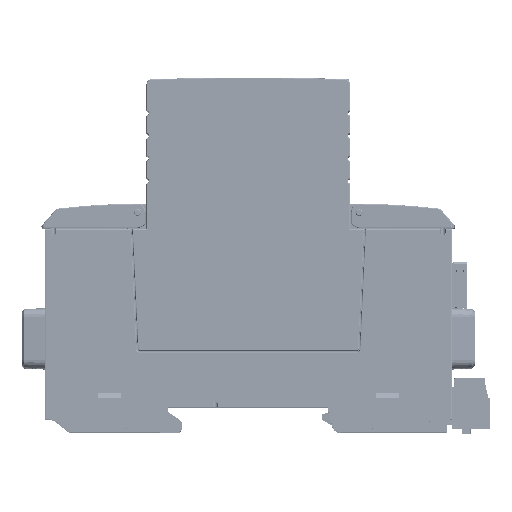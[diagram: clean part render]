
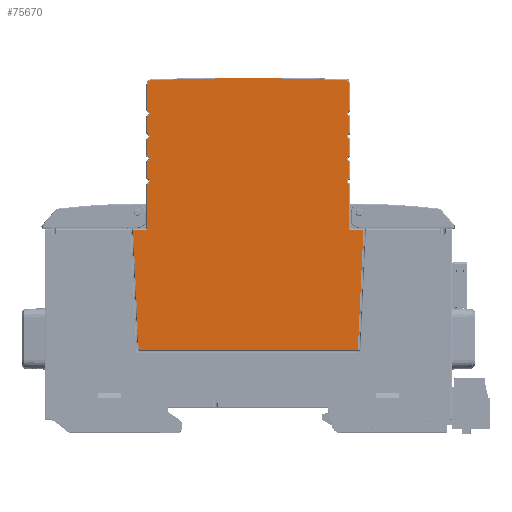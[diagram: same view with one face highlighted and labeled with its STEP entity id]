
A CAD part, top view. The second image highlights one B-rep face of the part: STEP entity #75670.
In plain terms, the highlighted planar face has unit normal (0, 0, 1) as drawn and (0, 0, -1) by its records, which use the part's own axes.
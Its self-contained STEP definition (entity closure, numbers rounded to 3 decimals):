
#1872=CIRCLE('',#79811,0.3);
#1875=CIRCLE('',#79816,0.3);
#1998=CIRCLE('',#80288,0.7);
#2009=CIRCLE('',#80308,0.7);
#2020=CIRCLE('',#80328,0.7);
#2031=CIRCLE('',#80348,0.7);
#2041=CIRCLE('',#80365,1.);
#2043=CIRCLE('',#80368,599.8);
#2044=CIRCLE('',#80370,1.);
#2051=CIRCLE('',#80383,0.7);
#2062=CIRCLE('',#80403,0.7);
#2074=CIRCLE('',#80424,0.7);
#2082=CIRCLE('',#80445,0.7);
#6128=ORIENTED_EDGE('',*,*,#27749,.T.);
#6129=ORIENTED_EDGE('',*,*,#27736,.T.);
#6130=ORIENTED_EDGE('',*,*,#27729,.T.);
#6131=ORIENTED_EDGE('',*,*,#27715,.T.);
#6132=ORIENTED_EDGE('',*,*,#27711,.T.);
#6133=ORIENTED_EDGE('',*,*,#27699,.T.);
#6134=ORIENTED_EDGE('',*,*,#27695,.T.);
#6135=ORIENTED_EDGE('',*,*,#26543,.T.);
#6136=ORIENTED_EDGE('',*,*,#27686,.T.);
#6137=ORIENTED_EDGE('',*,*,#27685,.T.);
#6138=ORIENTED_EDGE('',*,*,#27683,.T.);
#6139=ORIENTED_EDGE('',*,*,#27754,.T.);
#6140=ORIENTED_EDGE('',*,*,#27670,.T.);
#6141=ORIENTED_EDGE('',*,*,#27658,.T.);
#6142=ORIENTED_EDGE('',*,*,#27654,.T.);
#6143=ORIENTED_EDGE('',*,*,#27642,.T.);
#6144=ORIENTED_EDGE('',*,*,#27638,.T.);
#6145=ORIENTED_EDGE('',*,*,#27626,.T.);
#6146=ORIENTED_EDGE('',*,*,#27622,.T.);
#6147=ORIENTED_EDGE('',*,*,#26793,.T.);
#6148=ORIENTED_EDGE('',*,*,#26801,.T.);
#6149=ORIENTED_EDGE('',*,*,#26791,.T.);
#6150=ORIENTED_EDGE('',*,*,#26788,.T.);
#6151=ORIENTED_EDGE('',*,*,#26786,.T.);
#6152=ORIENTED_EDGE('',*,*,#26783,.T.);
#6153=ORIENTED_EDGE('',*,*,#26780,.T.);
#6154=ORIENTED_EDGE('',*,*,#26768,.T.);
#6155=ORIENTED_EDGE('',*,*,#27753,.T.);
#26543=EDGE_CURVE('',#37868,#37870,#45145,.T.);
#26768=EDGE_CURVE('',#38050,#38048,#45265,.T.);
#26780=EDGE_CURVE('',#38056,#38050,#45272,.T.);
#26783=EDGE_CURVE('',#38058,#38056,#1872,.T.);
#26786=EDGE_CURVE('',#38060,#38058,#45274,.T.);
#26788=EDGE_CURVE('',#38061,#38060,#1875,.T.);
#26791=EDGE_CURVE('',#38062,#38061,#45276,.T.);
#26793=EDGE_CURVE('',#38066,#38064,#45277,.T.);
#26801=EDGE_CURVE('',#38064,#38062,#45283,.T.);
#27622=EDGE_CURVE('',#38554,#38066,#1998,.T.);
#27626=EDGE_CURVE('',#38555,#38554,#45884,.T.);
#27638=EDGE_CURVE('',#38560,#38555,#2009,.T.);
#27642=EDGE_CURVE('',#38561,#38560,#45889,.T.);
#27654=EDGE_CURVE('',#38566,#38561,#2020,.T.);
#27658=EDGE_CURVE('',#38567,#38566,#45894,.T.);
#27670=EDGE_CURVE('',#38572,#38567,#2031,.T.);
#27683=EDGE_CURVE('',#38577,#38578,#2041,.T.);
#27685=EDGE_CURVE('',#38579,#38577,#2043,.T.);
#27686=EDGE_CURVE('',#37870,#38579,#2044,.T.);
#27695=EDGE_CURVE('',#38581,#37868,#2051,.T.);
#27699=EDGE_CURVE('',#38582,#38581,#45904,.T.);
#27711=EDGE_CURVE('',#38587,#38582,#2062,.T.);
#27715=EDGE_CURVE('',#38588,#38587,#45909,.T.);
#27729=EDGE_CURVE('',#38594,#38588,#2074,.T.);
#27736=EDGE_CURVE('',#38597,#38594,#45917,.T.);
#27749=EDGE_CURVE('',#38602,#38597,#2082,.T.);
#27753=EDGE_CURVE('',#38048,#38602,#45926,.T.);
#27754=EDGE_CURVE('',#38578,#38572,#45927,.T.);
#37868=VERTEX_POINT('',#107424);
#37870=VERTEX_POINT('',#107428);
#38048=VERTEX_POINT('',#108045);
#38050=VERTEX_POINT('',#108048);
#38056=VERTEX_POINT('',#108068);
#38058=VERTEX_POINT('',#108074);
#38060=VERTEX_POINT('',#108080);
#38061=VERTEX_POINT('',#108085);
#38062=VERTEX_POINT('',#108089);
#38064=VERTEX_POINT('',#108095);
#38066=VERTEX_POINT('',#108098);
#38554=VERTEX_POINT('',#110178);
#38555=VERTEX_POINT('',#110182);
#38560=VERTEX_POINT('',#110209);
#38561=VERTEX_POINT('',#110213);
#38566=VERTEX_POINT('',#110240);
#38567=VERTEX_POINT('',#110244);
#38572=VERTEX_POINT('',#110271);
#38577=VERTEX_POINT('',#110295);
#38578=VERTEX_POINT('',#110297);
#38579=VERTEX_POINT('',#110301);
#38581=VERTEX_POINT('',#110320);
#38582=VERTEX_POINT('',#110324);
#38587=VERTEX_POINT('',#110351);
#38588=VERTEX_POINT('',#110355);
#38594=VERTEX_POINT('',#110384);
#38597=VERTEX_POINT('',#110398);
#38602=VERTEX_POINT('',#110424);
#45145=LINE('',#107429,#54287);
#45265=LINE('',#108047,#54407);
#45272=LINE('',#108071,#54414);
#45274=LINE('',#108082,#54416);
#45276=LINE('',#108092,#54418);
#45277=LINE('',#108097,#54419);
#45283=LINE('',#108112,#54425);
#45884=LINE('',#110187,#55026);
#45889=LINE('',#110218,#55031);
#45894=LINE('',#110249,#55036);
#45904=LINE('',#110329,#55046);
#45909=LINE('',#110360,#55051);
#45917=LINE('',#110401,#55059);
#45926=LINE('',#110435,#55068);
#45927=LINE('',#110437,#55069);
#54287=VECTOR('',#85857,1000.);
#54407=VECTOR('',#86273,1000.);
#54414=VECTOR('',#86298,1000.);
#54416=VECTOR('',#86312,1000.);
#54418=VECTOR('',#86324,1000.);
#54419=VECTOR('',#86329,1000.);
#54425=VECTOR('',#86343,1000.);
#55026=VECTOR('',#87878,1000.);
#55031=VECTOR('',#87923,1000.);
#55036=VECTOR('',#87968,1000.);
#55046=VECTOR('',#88088,1000.);
#55051=VECTOR('',#88133,1000.);
#55059=VECTOR('',#88191,1000.);
#55068=VECTOR('',#88240,1000.);
#55069=VECTOR('',#88243,1000.);
#63831=EDGE_LOOP('',(#6128,#6129,#6130,#6131,#6132,#6133,#6134,#6135,#6136,
#6137,#6138,#6139,#6140,#6141,#6142,#6143,#6144,#6145,#6146,#6147,#6148,
#6149,#6150,#6151,#6152,#6153,#6154,#6155));
#68234=FACE_BOUND('',#63831,.T.);
#72380=PLANE('',#80452);
#75670=ADVANCED_FACE('',(#68234),#72380,.F.);
#79811=AXIS2_PLACEMENT_3D('',#108077,#86305,#86306);
#79816=AXIS2_PLACEMENT_3D('',#108086,#86317,#86318);
#80288=AXIS2_PLACEMENT_3D('',#110179,#87869,#87870);
#80308=AXIS2_PLACEMENT_3D('',#110210,#87914,#87915);
#80328=AXIS2_PLACEMENT_3D('',#110241,#87959,#87960);
#80348=AXIS2_PLACEMENT_3D('',#110272,#88004,#88005);
#80365=AXIS2_PLACEMENT_3D('',#110298,#88041,#88042);
#80368=AXIS2_PLACEMENT_3D('',#110302,#88047,#88048);
#80370=AXIS2_PLACEMENT_3D('',#110304,#88051,#88052);
#80383=AXIS2_PLACEMENT_3D('',#110321,#88079,#88080);
#80403=AXIS2_PLACEMENT_3D('',#110352,#88124,#88125);
#80424=AXIS2_PLACEMENT_3D('',#110387,#88172,#88173);
#80445=AXIS2_PLACEMENT_3D('',#110427,#88225,#88226);
#80452=AXIS2_PLACEMENT_3D('',#110436,#88241,#88242);
#85857=DIRECTION('',(0.,1.,0.));
#86273=DIRECTION('',(1.,0.,0.));
#86298=DIRECTION('',(-0.046,0.999,0.));
#86305=DIRECTION('',(0.,0.,-1.));
#86306=DIRECTION('',(0.,-1.,0.));
#86312=DIRECTION('',(-1.,0.,0.));
#86317=DIRECTION('',(0.,0.,-1.));
#86318=DIRECTION('',(0.999,-0.046,0.));
#86324=DIRECTION('',(-0.046,-0.999,0.));
#86329=DIRECTION('',(0.,-1.,0.));
#86343=DIRECTION('',(1.,0.,0.));
#87869=DIRECTION('',(0.,0.,1.));
#87870=DIRECTION('',(-0.286,0.958,0.));
#87878=DIRECTION('',(0.,-1.,0.));
#87914=DIRECTION('',(0.,0.,1.));
#87915=DIRECTION('',(-0.286,0.958,0.));
#87923=DIRECTION('',(0.,-1.,0.));
#87959=DIRECTION('',(0.,0.,1.));
#87960=DIRECTION('',(-0.286,0.958,0.));
#87968=DIRECTION('',(0.,-1.,0.));
#88004=DIRECTION('',(0.,0.,1.));
#88005=DIRECTION('',(-0.286,0.958,0.));
#88041=DIRECTION('',(0.,0.,-1.));
#88042=DIRECTION('',(0.036,0.999,0.));
#88047=DIRECTION('',(0.,0.,-1.));
#88048=DIRECTION('',(-0.036,0.999,0.));
#88051=DIRECTION('',(0.,0.,-1.));
#88052=DIRECTION('',(-1.,0.,0.));
#88079=DIRECTION('',(0.,0.,1.));
#88080=DIRECTION('',(0.286,-0.958,0.));
#88088=DIRECTION('',(0.,1.,0.));
#88124=DIRECTION('',(0.,0.,1.));
#88125=DIRECTION('',(0.286,-0.958,0.));
#88133=DIRECTION('',(0.,1.,0.));
#88172=DIRECTION('',(0.,0.,1.));
#88173=DIRECTION('',(0.286,-0.958,0.));
#88191=DIRECTION('',(0.,1.,0.));
#88225=DIRECTION('',(0.,0.,1.));
#88226=DIRECTION('',(0.286,-0.958,0.));
#88240=DIRECTION('',(0.,1.,0.));
#88241=DIRECTION('',(0.,0.,1.));
#88242=DIRECTION('',(1.,0.,0.));
#88243=DIRECTION('',(0.,-1.,0.));
#107424=CARTESIAN_POINT('',(-22.3,52.171,-26.9));
#107428=CARTESIAN_POINT('',(-22.3,57.843,-26.9));
#107429=CARTESIAN_POINT('',(-22.3,52.171,-26.9));
#108045=CARTESIAN_POINT('',(-22.3,25.72,-26.9));
#108047=CARTESIAN_POINT('',(-25.433,25.72,-26.9));
#108048=CARTESIAN_POINT('',(-25.433,25.72,-26.9));
#108068=CARTESIAN_POINT('',(-24.222,-0.514,-26.9));
#108071=CARTESIAN_POINT('',(-24.222,-0.514,-26.9));
#108074=CARTESIAN_POINT('',(-23.923,-0.8,-26.9));
#108077=CARTESIAN_POINT('',(-23.923,-0.5,-26.9));
#108080=CARTESIAN_POINT('',(23.923,-0.8,-26.9));
#108082=CARTESIAN_POINT('',(23.923,-0.8,-26.9));
#108085=CARTESIAN_POINT('',(24.222,-0.514,-26.9));
#108086=CARTESIAN_POINT('',(23.923,-0.5,-26.9));
#108089=CARTESIAN_POINT('',(25.433,25.72,-26.9));
#108092=CARTESIAN_POINT('',(25.433,25.72,-26.9));
#108095=CARTESIAN_POINT('',(22.3,25.72,-26.9));
#108097=CARTESIAN_POINT('',(22.3,35.829,-26.9));
#108098=CARTESIAN_POINT('',(22.3,35.829,-26.9));
#108112=CARTESIAN_POINT('',(22.3,25.72,-26.9));
#110178=CARTESIAN_POINT('',(22.3,37.171,-26.9));
#110179=CARTESIAN_POINT('',(22.5,36.5,-26.9));
#110182=CARTESIAN_POINT('',(22.3,40.829,-26.9));
#110187=CARTESIAN_POINT('',(22.3,40.829,-26.9));
#110209=CARTESIAN_POINT('',(22.3,42.171,-26.9));
#110210=CARTESIAN_POINT('',(22.5,41.5,-26.9));
#110213=CARTESIAN_POINT('',(22.3,45.829,-26.9));
#110218=CARTESIAN_POINT('',(22.3,45.829,-26.9));
#110240=CARTESIAN_POINT('',(22.3,47.171,-26.9));
#110241=CARTESIAN_POINT('',(22.5,46.5,-26.9));
#110244=CARTESIAN_POINT('',(22.3,50.829,-26.9));
#110249=CARTESIAN_POINT('',(22.3,50.829,-26.9));
#110271=CARTESIAN_POINT('',(22.3,52.171,-26.9));
#110272=CARTESIAN_POINT('',(22.5,51.5,-26.9));
#110295=CARTESIAN_POINT('',(21.336,58.842,-26.9));
#110297=CARTESIAN_POINT('',(22.3,57.843,-26.9));
#110298=CARTESIAN_POINT('',(21.3,57.843,-26.9));
#110301=CARTESIAN_POINT('',(-21.336,58.842,-26.9));
#110302=CARTESIAN_POINT('',(0.,-540.578,-26.9));
#110304=CARTESIAN_POINT('',(-21.3,57.843,-26.9));
#110320=CARTESIAN_POINT('',(-22.3,50.829,-26.9));
#110321=CARTESIAN_POINT('',(-22.5,51.5,-26.9));
#110324=CARTESIAN_POINT('',(-22.3,47.171,-26.9));
#110329=CARTESIAN_POINT('',(-22.3,47.171,-26.9));
#110351=CARTESIAN_POINT('',(-22.3,45.829,-26.9));
#110352=CARTESIAN_POINT('',(-22.5,46.5,-26.9));
#110355=CARTESIAN_POINT('',(-22.3,42.171,-26.9));
#110360=CARTESIAN_POINT('',(-22.3,42.171,-26.9));
#110384=CARTESIAN_POINT('',(-22.3,40.829,-26.9));
#110387=CARTESIAN_POINT('',(-22.5,41.5,-26.9));
#110398=CARTESIAN_POINT('',(-22.3,37.171,-26.9));
#110401=CARTESIAN_POINT('',(-22.3,37.171,-26.9));
#110424=CARTESIAN_POINT('',(-22.3,35.829,-26.9));
#110427=CARTESIAN_POINT('',(-22.5,36.5,-26.9));
#110435=CARTESIAN_POINT('',(-22.3,25.72,-26.9));
#110436=CARTESIAN_POINT('',(0.,0.,-26.9));
#110437=CARTESIAN_POINT('',(22.3,57.843,-26.9));
